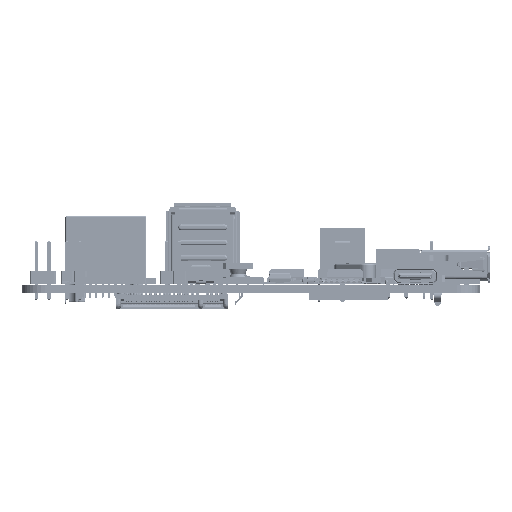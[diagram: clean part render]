
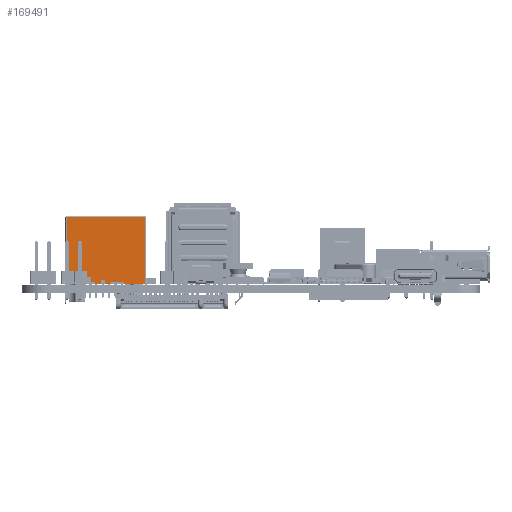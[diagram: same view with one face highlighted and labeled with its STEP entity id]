
A CAD part, left-side view. The second image highlights one B-rep face of the part: STEP entity #169491.
In plain terms, the highlighted free-form (B-spline) face has degree [1, 1] with [2, 2] control points.
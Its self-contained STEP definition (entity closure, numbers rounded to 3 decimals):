
#169491 = ADVANCED_FACE('',(#169492),#169505,.F.);
#169492 = FACE_BOUND('',#169493,.F.);
#169493 = EDGE_LOOP('',(#169494,#169529,#169554,#169582));
#169494 = ORIENTED_EDGE('',*,*,#169495,.F.);
#169495 = EDGE_CURVE('',#169496,#169498,#169500,.T.);
#169496 = VERTEX_POINT('',#169497);
#169497 = CARTESIAN_POINT('',(-7.735,-6.65,0.));
#169498 = VERTEX_POINT('',#169499);
#169499 = CARTESIAN_POINT('',(-7.735,6.42,0.));
#169500 = SURFACE_CURVE('',#169501,(#169504,#169515),.PCURVE_S1.);
#169501 = B_SPLINE_CURVE_WITH_KNOTS('',1,(#169502,#169503),
  .UNSPECIFIED.,.F.,.F.,(2,2),(0.,13.07),.PIECEWISE_BEZIER_KNOTS.);
#169502 = CARTESIAN_POINT('',(-7.735,-6.65,0.));
#169503 = CARTESIAN_POINT('',(-7.735,6.42,0.));
#169504 = PCURVE('',#169505,#169510);
#169505 = B_SPLINE_SURFACE_WITH_KNOTS('',1,1,(
    (#169506,#169507)
    ,(#169508,#169509
    )),.UNSPECIFIED.,.F.,.F.,.F.,(2,2),(2,2),(-7.735,7.735),(-6.65,6.42)
  ,.PIECEWISE_BEZIER_KNOTS.);
#169506 = CARTESIAN_POINT('',(-7.735,-6.65,0.));
#169507 = CARTESIAN_POINT('',(-7.735,6.42,0.));
#169508 = CARTESIAN_POINT('',(7.735,-6.65,0.));
#169509 = CARTESIAN_POINT('',(7.735,6.42,0.));
#169510 = DEFINITIONAL_REPRESENTATION('',(#169511),#169514);
#169511 = B_SPLINE_CURVE_WITH_KNOTS('',1,(#169512,#169513),
  .UNSPECIFIED.,.F.,.F.,(2,2),(0.,13.07),.PIECEWISE_BEZIER_KNOTS.);
#169512 = CARTESIAN_POINT('',(-7.735,-6.65));
#169513 = CARTESIAN_POINT('',(-7.735,6.42));
#169514 = ( GEOMETRIC_REPRESENTATION_CONTEXT(2) 
PARAMETRIC_REPRESENTATION_CONTEXT() REPRESENTATION_CONTEXT('2D SPACE',''
  ) );
#169515 = PCURVE('',#169516,#169523);
#169516 = ( BOUNDED_SURFACE() B_SPLINE_SURFACE(2,1,(
    (#169517,#169518)
    ,(#169519,#169520)
    ,(#169521,#169522
)),.UNSPECIFIED.,.F.,.F.,.F.) B_SPLINE_SURFACE_WITH_KNOTS((3,3),(2,2),(
    0.,1.571),(26.552,39.622),
.PIECEWISE_BEZIER_KNOTS.) GEOMETRIC_REPRESENTATION_ITEM() 
RATIONAL_B_SPLINE_SURFACE((
    (1.,1.)
    ,(0.707,0.707)
,(1.,1.))) REPRESENTATION_ITEM('') SURFACE() );
#169517 = CARTESIAN_POINT('',(-7.735,-6.65,0.));
#169518 = CARTESIAN_POINT('',(-7.735,6.42,0.));
#169519 = CARTESIAN_POINT('',(-7.965,-6.65,0.));
#169520 = CARTESIAN_POINT('',(-7.965,6.42,0.));
#169521 = CARTESIAN_POINT('',(-7.965,-6.65,0.23));
#169522 = CARTESIAN_POINT('',(-7.965,6.42,0.23));
#169523 = DEFINITIONAL_REPRESENTATION('',(#169524),#169528);
#169524 = B_SPLINE_CURVE_WITH_KNOTS('',2,(#169525,#169526,#169527),
  .UNSPECIFIED.,.F.,.F.,(3,3),(0.,13.07),.PIECEWISE_BEZIER_KNOTS.);
#169525 = CARTESIAN_POINT('',(0.,26.552));
#169526 = CARTESIAN_POINT('',(0.,33.087));
#169527 = CARTESIAN_POINT('',(0.,39.622));
#169528 = ( GEOMETRIC_REPRESENTATION_CONTEXT(2) 
PARAMETRIC_REPRESENTATION_CONTEXT() REPRESENTATION_CONTEXT('2D SPACE',''
  ) );
#169529 = ORIENTED_EDGE('',*,*,#169530,.T.);
#169530 = EDGE_CURVE('',#169496,#169531,#169533,.T.);
#169531 = VERTEX_POINT('',#169532);
#169532 = CARTESIAN_POINT('',(7.735,-6.65,0.));
#169533 = SURFACE_CURVE('',#169534,(#169537,#169543),.PCURVE_S1.);
#169534 = B_SPLINE_CURVE_WITH_KNOTS('',1,(#169535,#169536),
  .UNSPECIFIED.,.F.,.F.,(2,2),(0.,15.47),.PIECEWISE_BEZIER_KNOTS.);
#169535 = CARTESIAN_POINT('',(-7.735,-6.65,0.));
#169536 = CARTESIAN_POINT('',(7.735,-6.65,0.));
#169537 = PCURVE('',#169505,#169538);
#169538 = DEFINITIONAL_REPRESENTATION('',(#169539),#169542);
#169539 = B_SPLINE_CURVE_WITH_KNOTS('',1,(#169540,#169541),
  .UNSPECIFIED.,.F.,.F.,(2,2),(0.,15.47),.PIECEWISE_BEZIER_KNOTS.);
#169540 = CARTESIAN_POINT('',(-7.735,-6.65));
#169541 = CARTESIAN_POINT('',(7.735,-6.65));
#169542 = ( GEOMETRIC_REPRESENTATION_CONTEXT(2) 
PARAMETRIC_REPRESENTATION_CONTEXT() REPRESENTATION_CONTEXT('2D SPACE',''
  ) );
#169543 = PCURVE('',#169544,#169549);
#169544 = B_SPLINE_SURFACE_WITH_KNOTS('',1,1,(
    (#169545,#169546)
    ,(#169547,#169548
    )),.UNSPECIFIED.,.F.,.F.,.F.,(2,2),(2,2),(0.,15.93
    ),(0.,21.02),.PIECEWISE_BEZIER_KNOTS.);
#169545 = CARTESIAN_POINT('',(-7.965,-6.65,0.));
#169546 = CARTESIAN_POINT('',(-7.965,-6.65,21.02));
#169547 = CARTESIAN_POINT('',(7.965,-6.65,0.));
#169548 = CARTESIAN_POINT('',(7.965,-6.65,21.02));
#169549 = DEFINITIONAL_REPRESENTATION('',(#169550),#169553);
#169550 = B_SPLINE_CURVE_WITH_KNOTS('',1,(#169551,#169552),
  .UNSPECIFIED.,.F.,.F.,(2,2),(0.,15.47),.PIECEWISE_BEZIER_KNOTS.);
#169551 = CARTESIAN_POINT('',(0.23,0.));
#169552 = CARTESIAN_POINT('',(15.7,0.));
#169553 = ( GEOMETRIC_REPRESENTATION_CONTEXT(2) 
PARAMETRIC_REPRESENTATION_CONTEXT() REPRESENTATION_CONTEXT('2D SPACE',''
  ) );
#169554 = ORIENTED_EDGE('',*,*,#169555,.F.);
#169555 = EDGE_CURVE('',#169556,#169531,#169558,.T.);
#169556 = VERTEX_POINT('',#169557);
#169557 = CARTESIAN_POINT('',(7.735,6.42,0.));
#169558 = SURFACE_CURVE('',#169559,(#169562,#169568),.PCURVE_S1.);
#169559 = B_SPLINE_CURVE_WITH_KNOTS('',1,(#169560,#169561),
  .UNSPECIFIED.,.F.,.F.,(2,2),(0.,13.07),.PIECEWISE_BEZIER_KNOTS.);
#169560 = CARTESIAN_POINT('',(7.735,6.42,0.));
#169561 = CARTESIAN_POINT('',(7.735,-6.65,0.));
#169562 = PCURVE('',#169505,#169563);
#169563 = DEFINITIONAL_REPRESENTATION('',(#169564),#169567);
#169564 = B_SPLINE_CURVE_WITH_KNOTS('',1,(#169565,#169566),
  .UNSPECIFIED.,.F.,.F.,(2,2),(0.,13.07),.PIECEWISE_BEZIER_KNOTS.);
#169565 = CARTESIAN_POINT('',(7.735,6.42));
#169566 = CARTESIAN_POINT('',(7.735,-6.65));
#169567 = ( GEOMETRIC_REPRESENTATION_CONTEXT(2) 
PARAMETRIC_REPRESENTATION_CONTEXT() REPRESENTATION_CONTEXT('2D SPACE',''
  ) );
#169568 = PCURVE('',#169569,#169576);
#169569 = ( BOUNDED_SURFACE() B_SPLINE_SURFACE(2,1,(
    (#169570,#169571)
    ,(#169572,#169573)
    ,(#169574,#169575
)),.UNSPECIFIED.,.F.,.F.,.F.) B_SPLINE_SURFACE_WITH_KNOTS((3,3),(2,2),(
    0.,1.571),(22.782,35.852),
.PIECEWISE_BEZIER_KNOTS.) GEOMETRIC_REPRESENTATION_ITEM() 
RATIONAL_B_SPLINE_SURFACE((
    (1.,1.)
    ,(0.707,0.707)
,(1.,1.))) REPRESENTATION_ITEM('') SURFACE() );
#169570 = CARTESIAN_POINT('',(7.735,6.42,0.));
#169571 = CARTESIAN_POINT('',(7.735,-6.65,0.));
#169572 = CARTESIAN_POINT('',(7.965,6.42,0.));
#169573 = CARTESIAN_POINT('',(7.965,-6.65,0.));
#169574 = CARTESIAN_POINT('',(7.965,6.42,0.23));
#169575 = CARTESIAN_POINT('',(7.965,-6.65,0.23));
#169576 = DEFINITIONAL_REPRESENTATION('',(#169577),#169581);
#169577 = B_SPLINE_CURVE_WITH_KNOTS('',2,(#169578,#169579,#169580),
  .UNSPECIFIED.,.F.,.F.,(3,3),(0.,13.07),.PIECEWISE_BEZIER_KNOTS.);
#169578 = CARTESIAN_POINT('',(0.,22.782));
#169579 = CARTESIAN_POINT('',(0.,29.317));
#169580 = CARTESIAN_POINT('',(0.,35.852));
#169581 = ( GEOMETRIC_REPRESENTATION_CONTEXT(2) 
PARAMETRIC_REPRESENTATION_CONTEXT() REPRESENTATION_CONTEXT('2D SPACE',''
  ) );
#169582 = ORIENTED_EDGE('',*,*,#169583,.F.);
#169583 = EDGE_CURVE('',#169498,#169556,#169584,.T.);
#169584 = SURFACE_CURVE('',#169585,(#169588,#169594),.PCURVE_S1.);
#169585 = B_SPLINE_CURVE_WITH_KNOTS('',1,(#169586,#169587),
  .UNSPECIFIED.,.F.,.F.,(2,2),(0.,15.47),.PIECEWISE_BEZIER_KNOTS.);
#169586 = CARTESIAN_POINT('',(-7.735,6.42,0.));
#169587 = CARTESIAN_POINT('',(7.735,6.42,0.));
#169588 = PCURVE('',#169505,#169589);
#169589 = DEFINITIONAL_REPRESENTATION('',(#169590),#169593);
#169590 = B_SPLINE_CURVE_WITH_KNOTS('',1,(#169591,#169592),
  .UNSPECIFIED.,.F.,.F.,(2,2),(0.,15.47),.PIECEWISE_BEZIER_KNOTS.);
#169591 = CARTESIAN_POINT('',(-7.735,6.42));
#169592 = CARTESIAN_POINT('',(7.735,6.42));
#169593 = ( GEOMETRIC_REPRESENTATION_CONTEXT(2) 
PARAMETRIC_REPRESENTATION_CONTEXT() REPRESENTATION_CONTEXT('2D SPACE',''
  ) );
#169594 = PCURVE('',#169595,#169602);
#169595 = ( BOUNDED_SURFACE() B_SPLINE_SURFACE(2,1,(
    (#169596,#169597)
    ,(#169598,#169599)
    ,(#169600,#169601
)),.UNSPECIFIED.,.F.,.F.,.F.) B_SPLINE_SURFACE_WITH_KNOTS((3,3),(2,2),(
    0.,1.571),(21.537,37.007),
.PIECEWISE_BEZIER_KNOTS.) GEOMETRIC_REPRESENTATION_ITEM() 
RATIONAL_B_SPLINE_SURFACE((
    (1.,1.)
    ,(0.707,0.707)
,(1.,1.))) REPRESENTATION_ITEM('') SURFACE() );
#169596 = CARTESIAN_POINT('',(-7.735,6.42,0.));
#169597 = CARTESIAN_POINT('',(7.735,6.42,0.));
#169598 = CARTESIAN_POINT('',(-7.735,6.65,0.));
#169599 = CARTESIAN_POINT('',(7.735,6.65,0.));
#169600 = CARTESIAN_POINT('',(-7.735,6.65,0.23));
#169601 = CARTESIAN_POINT('',(7.735,6.65,0.23));
#169602 = DEFINITIONAL_REPRESENTATION('',(#169603),#169607);
#169603 = B_SPLINE_CURVE_WITH_KNOTS('',2,(#169604,#169605,#169606),
  .UNSPECIFIED.,.F.,.F.,(3,3),(0.,15.47),.PIECEWISE_BEZIER_KNOTS.);
#169604 = CARTESIAN_POINT('',(0.,21.537));
#169605 = CARTESIAN_POINT('',(0.,29.272));
#169606 = CARTESIAN_POINT('',(0.,37.007));
#169607 = ( GEOMETRIC_REPRESENTATION_CONTEXT(2) 
PARAMETRIC_REPRESENTATION_CONTEXT() REPRESENTATION_CONTEXT('2D SPACE',''
  ) );
